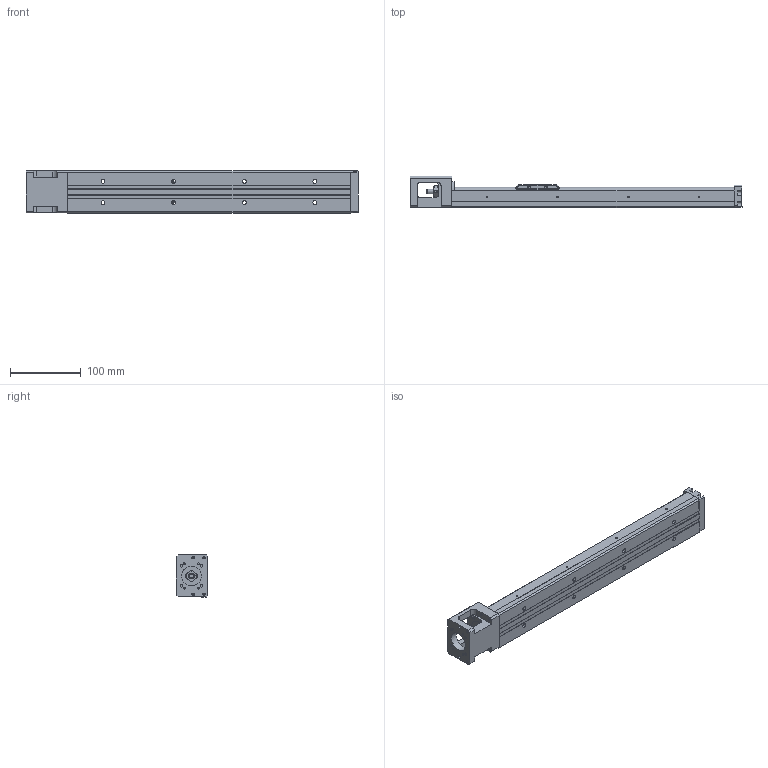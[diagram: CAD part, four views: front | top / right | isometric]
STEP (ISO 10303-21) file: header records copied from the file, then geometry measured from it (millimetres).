
FILE_DESCRIPTION(/* description */ (''),/* implementation_level */ '2;1');
FILE_NAME(/* name */ 'KP33S-400C02-1.stp',/* time_stamp */ '2020-07-01T11:57:17+08:00',/* author */ (''),/* organization */ (''),/* preprocessor_version */ 'ST-DEVELOPER v14',/* originating_system */ 'SIEMENS PLM Software NX 8.0',/* authorisation */ '');
FILE_SCHEMA (('AUTOMOTIVE_DESIGN { 1 0 10303 214 3 1 1 1 }'));
Length unit declared in the file: millimetre
Products named in the file (1): model1
Bounding box: 470 x 44.45 x 60 mm (x, y, z)
Volume: 504044.6 mm3; surface area: 143309.3 mm2
Topology: 5 solids, 14 shells, 623 faces, 1590 edges, 1046 vertices
Faces by surface type: plane 365, cylinder 177, bspline 31, extrusion 21, cone 20, torus 7, sphere 2
Full cylindrical faces by diameter (mm): 1.6 x3, 1.65 x4, 2.15 x4, 2.42 x4, 2.45 x2, 2.5 x12, 3.2 x4, 3.3 x4, 3.4 x4, 3.5 x10, 3.969 x1, 4 x4, 4.001 x1, 4.135 x2, 5.5 x8, 6 x5, 7.6 x1, 8 x5, 9.5 x8, 10.72 x3, 11.8 x2, 12 x6, 12.8 x1, 13 x2, 14 x1, 16 x4, 21.5 x1, 28 x1
Entity records: 33759 total; most frequent: CARTESIAN_POINT 15203, DIRECTION 2850, ORIENTED_EDGE 2772, EDGE_CURVE 1386, AXIS2_PLACEMENT_3D 1007, VERTEX_POINT 978, EDGE_LOOP 872, VECTOR 836
